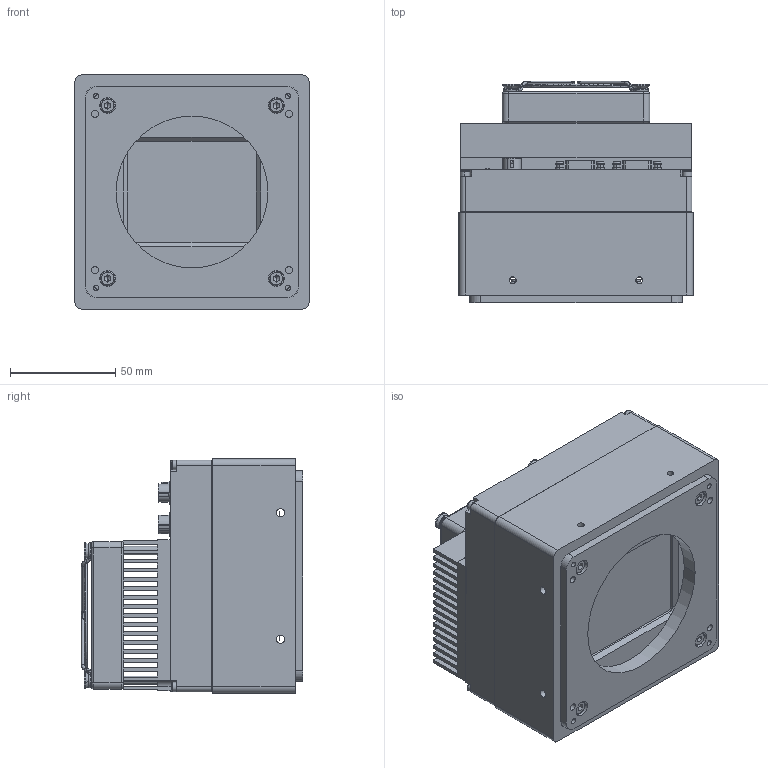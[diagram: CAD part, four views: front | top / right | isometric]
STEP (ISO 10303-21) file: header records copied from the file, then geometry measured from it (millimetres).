
FILE_DESCRIPTION (( 'STEP AP203' ), '1' );
FILE_NAME ('TTS151M2CL-5M-A02-V1.2.0-外形尺寸图（后截距变更）.STEP', '2022-12-06T01:50:14', ( '微软用户' ), ( '微软中国' ), 'SwSTEP 2.0', 'SolidWorks 2017', '' );
FILE_SCHEMA (( 'CONFIG_CONTROL_DESIGN' ));
Length unit declared in the file: millimetre
Products named in the file (1): TTS151M2CL-5M-A02-V1.2.0-外形尺寸图（后截距变更）
Bounding box: 111 x 104.97 x 111 mm (x, y, z)
Surface area: 150957.7 mm2 (no closed solid volume)
Topology: 0 solids, 89 shells, 899 faces, 3423 edges, 2554 vertices
Faces by surface type: plane 446, cylinder 301, bspline 63, cone 55, torus 24, sphere 10
Entity records: 39451 total; most frequent: CARTESIAN_POINT 11168, DIRECTION 5862, ORIENTED_EDGE 5154, EDGE_CURVE 3386, VERTEX_POINT 2543, LINE 2112, VECTOR 2112, AXIS2_PLACEMENT_3D 1875
